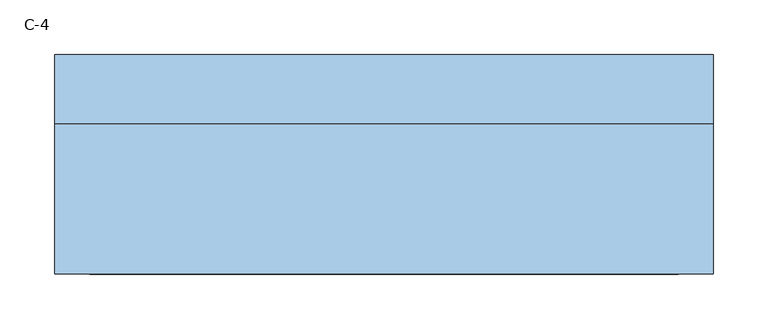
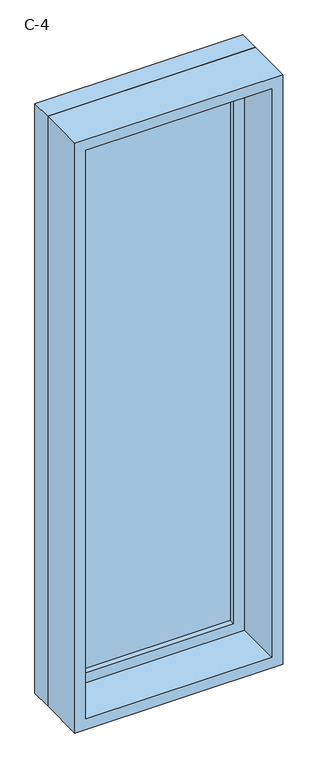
"""IFC4 building model written with IfcOpenShell, lengths in millimetres: window geometry, 固定 : C-4."""

import ifcopenshell
import ifcopenshell.guid

model = None  # the IFC model being written
_history = None  # IfcOwnerHistory: only IFC2X3 demands one
_inside = {}  # id of a spatial element -> (the spatial element, [elements in it])
_under = {}  # id of a project, library or spatial element -> (it, [spatial elements below it])
_declared = {}  # id of a project -> (the project, [libraries it declares])
_typed = {}  # id of a type object -> (the type object, [elements of that type])
_made_of = {}  # id of a material, layer set ... -> (it, [elements and type objects made of it])


def new_model(schema):
    """Start an empty IFC model of exactly this schema.

    Asked for "IFC4X3", IfcOpenShell would pick the latest addendum, in which some entities
    have other attributes; the version numbers below select the first issue.
    IFC2X3 requires an IfcOwnerHistory on every rooted entity: one is made here for all.
    """
    global model, _history
    if schema == "IFC4X3":
        model = ifcopenshell.file(schema_version=(4, 3, 0, 0))
    else:
        model = ifcopenshell.file(schema=schema)
    _inside.clear()
    _under.clear()
    _declared.clear()
    _typed.clear()
    _made_of.clear()
    _history = None
    if model.schema == "IFC2X3":
        org = make("IfcOrganization", Name="unknown")
        user = make(
            "IfcPersonAndOrganization",
            ThePerson=make("IfcPerson", FamilyName="unknown"),
            TheOrganization=org,
        )
        app = make(
            "IfcApplication",
            ApplicationDeveloper=org,
            Version="unknown",
            ApplicationFullName="unknown",
            ApplicationIdentifier="unknown",
        )
        _history = make(
            "IfcOwnerHistory",
            OwningUser=user,
            OwningApplication=app,
            ChangeAction="ADDED",
            CreationDate=0,
        )
    return model


def make(cls, **values):
    """One entity of the class cls with the attributes given. An attribute that is None is left unset."""
    return model.create_entity(
        cls, **{name: value for name, value in values.items() if value is not None}
    )


def rooted(cls, **values):
    """An entity with a GlobalId (a new one), such as an element, a storey or a relation."""
    return make(cls, GlobalId=ifcopenshell.guid.new(), OwnerHistory=_history, **values)


def si_unit(unit_type, name, prefix=None):
    """IfcSIUnit, for example si_unit("LENGTHUNIT", "METRE", prefix="MILLI")."""
    return make("IfcSIUnit", UnitType=unit_type, Prefix=prefix, Name=name)


def assignment(units):
    """IfcUnitAssignment: the units of a project."""
    return None if units is None else make("IfcUnitAssignment", Units=units)


def point(xyz):
    """IfcCartesianPoint."""
    return None if xyz is None else make("IfcCartesianPoint", Coordinates=xyz)


def direction(xyz):
    """IfcDirection."""
    return None if xyz is None else make("IfcDirection", DirectionRatios=xyz)


def frame(location, z_axis=None, x_axis=None):
    """IfcAxis2Placement3D, a coordinate frame: its origin and axes. An axis left out is left unset."""
    return make(
        "IfcAxis2Placement3D",
        Location=point(location),
        Axis=direction(z_axis),
        RefDirection=direction(x_axis),
    )


def origin():
    """The frame at (0, 0, 0) with its axes left unset."""
    return frame((0.0, 0.0, 0.0))


def place(relative_to, where):
    """IfcLocalPlacement: puts the frame where relative to a parent placement (None: the world)."""
    return make(
        "IfcLocalPlacement", PlacementRelTo=relative_to, RelativePlacement=where
    )


def context(
    kind, dimensions, precision=None, world=None, true_north=None, identifier=None
):
    """IfcGeometricRepresentationContext, for example the 3D "Model" context."""
    return make(
        "IfcGeometricRepresentationContext",
        ContextIdentifier=identifier,
        ContextType=kind,
        CoordinateSpaceDimension=dimensions,
        Precision=precision,
        WorldCoordinateSystem=world,
        TrueNorth=true_north,
    )


def project(units=None, contexts=None):
    """IfcProject with its units and contexts."""
    return rooted(
        "IfcProject",
        Name="project",
        RepresentationContexts=contexts,
        UnitsInContext=assignment(units),
    )


def spatial(cls, under=None, at=None, **own):
    """A site, building, storey or space (cls), placed at a placement, below another one or the project."""
    s = rooted(cls, ObjectPlacement=at, **own)
    if under is not None:
        _under.setdefault(under.id(), (under, []))[1].append(s)
    return s


def polyline(points):
    """IfcPolyline through the points."""
    return make("IfcPolyline", Points=[point(p) for p in points])


def outline(outer, holes=None, kind="AREA"):
    """IfcArbitraryClosedProfileDef: a profile drawn as a closed curve; with holes, ...WithVoids."""
    if holes is None:
        return make("IfcArbitraryClosedProfileDef", ProfileType=kind, OuterCurve=outer)
    return make(
        "IfcArbitraryProfileDefWithVoids",
        ProfileType=kind,
        OuterCurve=outer,
        InnerCurves=holes,
    )


def extrude(swept, where, along, depth):
    """IfcExtrudedAreaSolid: the profile swept, set in the frame where, extruded along a direction by depth."""
    return make(
        "IfcExtrudedAreaSolid",
        SweptArea=swept,
        Position=where,
        ExtrudedDirection=direction(along),
        Depth=depth,
    )


def shape(context_of_items, identifier, shape_type, items):
    """IfcShapeRepresentation: the items that make up one representation, for example the "Body"."""
    return make(
        "IfcShapeRepresentation",
        ContextOfItems=context_of_items,
        RepresentationIdentifier=identifier,
        RepresentationType=shape_type,
        Items=items,
    )


def source(mapping_origin, context_of_items, identifier, shape_type, items):
    """IfcRepresentationMap: a shape defined once, which mapped items show again and again."""
    return make(
        "IfcRepresentationMap",
        MappingOrigin=mapping_origin,
        MappedRepresentation=shape(context_of_items, identifier, shape_type, items),
    )


def transform(
    local_origin,
    x_axis=None,
    y_axis=None,
    z_axis=None,
    scale=None,
    scale2=None,
    scale3=None,
    uniform=True,
):
    """IfcCartesianTransformationOperator3D, or its non-uniform kind. x_axis, y_axis, z_axis: its Axis1, 2, 3."""
    if uniform:
        return make(
            "IfcCartesianTransformationOperator3D",
            Axis1=direction(x_axis),
            Axis2=direction(y_axis),
            LocalOrigin=point(local_origin),
            Scale=scale,
            Axis3=direction(z_axis),
        )
    return make(
        "IfcCartesianTransformationOperator3DnonUniform",
        Axis1=direction(x_axis),
        Axis2=direction(y_axis),
        LocalOrigin=point(local_origin),
        Scale=scale,
        Axis3=direction(z_axis),
        Scale2=scale2,
        Scale3=scale3,
    )


def mapped(mapping_source, mapping_target):
    """IfcMappedItem: shows the shape of a source again, moved by a transform."""
    return make(
        "IfcMappedItem", MappingSource=mapping_source, MappingTarget=mapping_target
    )


def made_of(thing, what):
    """Note that an element or type object is made of a material, layer set ...; save() writes the relation."""
    if what is not None:
        _made_of.setdefault(what.id(), (what, []))[1].append(thing)
    return thing


def element(
    cls,
    number,
    at=None,
    inside=None,
    cuts=None,
    type_object=None,
    material=None,
    context=None,
    identifier="Body",
    shape_type=None,
    held_by="IfcProductDefinitionShape",
    body=None,
    shapes=None,
    **own,
):
    """One element of the class cls, such as IfcWall. Its Tag is "e" and its number.

    at: its placement. inside: the storey or other place that contains it. cuts: it is an
    opening in that element (IfcRelVoidsElement). A single representation is given by context,
    identifier, shape_type and body (its items); several are given by shapes. held_by: the class
    of the entity that holds the representations. save() writes the other relations.
    """
    e = rooted(cls, Tag="e%d" % number, ObjectPlacement=at, **own)
    if body is not None:
        shapes = [shape(context, identifier, shape_type, body)]
    if shapes is not None:
        e.Representation = make(held_by, Representations=shapes)
    if inside is not None:
        _inside.setdefault(inside.id(), (inside, []))[1].append(e)
    if cuts is not None:
        rooted(
            "IfcRelVoidsElement", RelatingBuildingElement=cuts, RelatedOpeningElement=e
        )
    if type_object is not None:
        _typed.setdefault(type_object.id(), (type_object, []))[1].append(e)
    return made_of(e, material)


def aggregate(whole, parts):
    """IfcRelAggregates: a whole, such as a stair, and the parts it consists of."""
    return rooted("IfcRelAggregates", RelatingObject=whole, RelatedObjects=parts)


def save(model, path):
    """Write the relations noted so far, then the file.

    IfcRelAggregates (storeys below a building ...), IfcRelContainedInSpatialStructure (elements
    in a storey), IfcRelDefinesByType, IfcRelAssociatesMaterial and IfcRelDeclares: one each for
    every whole, place, type object, material and project.
    """
    for whole, parts in _under.values():
        aggregate(whole, parts)
    for where, things in _inside.values():
        rooted(
            "IfcRelContainedInSpatialStructure",
            RelatedElements=things,
            RelatingStructure=where,
        )
    for kind, things in _typed.values():
        rooted("IfcRelDefinesByType", RelatedObjects=things, RelatingType=kind)
    for what, things in _made_of.values():
        rooted("IfcRelAssociatesMaterial", RelatedObjects=things, RelatingMaterial=what)
    for by, libraries in _declared.values():
        rooted("IfcRelDeclares", RelatingContext=by, RelatedDefinitions=libraries)
    model.write(path)


def c_4_3e6a4c70(model_context):
    return source(origin(), model_context, "Body", "SweptSolid", [
        extrude(outline(polyline([(-237.0, 78.0), (237.0, 78.0), (237.0, 66.0), (-237.0, 66.0), (-237.0, 78.0)])), frame((0.0, 0.0, 1663.0), z_axis=(0.0, 0.0, 1.0), x_axis=(1.0, 0.0, 0.0)), (0.0, 0.0, 1.0), 1674.0),
        extrude(outline(polyline([(3381.0, -281.0), (1619.0, -281.0), (1619.0, 281.0), (3381.0, 281.0), (3381.0, -281.0)]), holes=[polyline([(3337.0, -237.0), (3337.0, 237.0), (1663.0, 237.0), (1663.0, -237.0), (3337.0, -237.0)])]), frame((0.0, 50.0, 0.0), z_axis=(0.0, 1.0, 0.0), x_axis=(0.0, 0.0, 1.0)), (0.0, 0.0, 1.0), 44.0),
        extrude(outline(polyline([(3400.0, -300.0), (1600.0, -300.0), (1600.0, 300.0), (3400.0, 300.0), (3400.0, -300.0)]), holes=[polyline([(3381.0, -281.0), (3381.0, 281.0), (1619.0, 281.0), (1619.0, -281.0), (3381.0, -281.0)])]), frame((0.0, 50.0, 0.0), z_axis=(0.0, 1.0, 0.0), x_axis=(0.0, 0.0, 1.0)), (0.0, 0.0, 1.0), 63.0),
        extrude(outline(polyline([(3400.0, -300.0), (1600.0, -300.0), (1600.0, 300.0), (3400.0, 300.0), (3400.0, -300.0)]), holes=[polyline([(3368.0, -268.0), (3368.0, 268.0), (1632.0, 268.0), (1632.0, -268.0), (3368.0, -268.0)])]), frame((0.0, -87.0, 0.0), z_axis=(0.0, 1.0, 0.0), x_axis=(0.0, 0.0, 1.0)), (0.0, 0.0, 1.0), 137.0),
    ])


if __name__ == "__main__":
    model = new_model("IFC4")
    model_context = context("Model", 3, world=origin())
    ifc_project = project(units=[si_unit("LENGTHUNIT", "METRE", prefix="MILLI")], contexts=[model_context])
    site = spatial("IfcSite", under=ifc_project)
    building = spatial("IfcBuilding", under=site)
    placement = place(None, origin())
    c_4_shape = c_4_3e6a4c70(model_context)
    element("IfcWindow", 1, ObjectType="固定 : C-4", at=placement, inside=building, context=model_context, shape_type="MappedRepresentation", body=[
        mapped(c_4_shape, transform((0.0, 0.0, 0.0), x_axis=(1.0, 0.0, 0.0), y_axis=(0.0, 1.0, 0.0), z_axis=(0.0, 0.0, 1.0))),
    ])
    save(model, "model.ifc")
